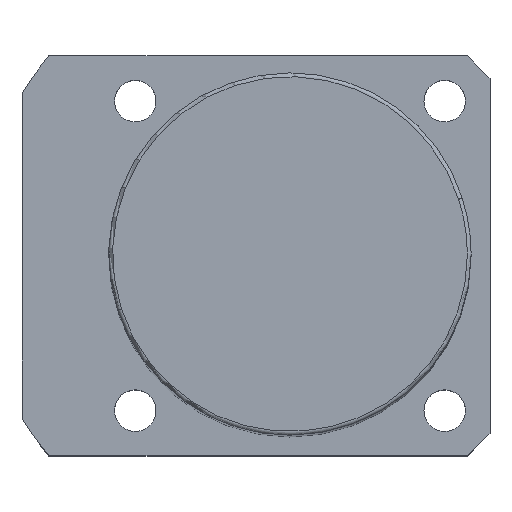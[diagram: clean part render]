
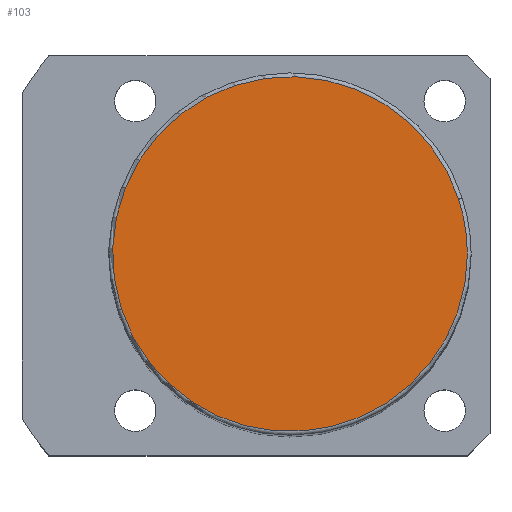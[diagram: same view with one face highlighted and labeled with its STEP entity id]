
A CAD part, top view. The second image highlights one B-rep face of the part: STEP entity #103.
In plain terms, the highlighted planar face has unit normal (0, 0, 1).
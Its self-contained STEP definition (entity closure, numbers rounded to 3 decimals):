
#16=CARTESIAN_POINT('',(-22.35,-7.262,149.0));
#17=VERTEX_POINT('',#16);
#54=CARTESIAN_POINT('',(22.35,7.262,149.0));
#55=VERTEX_POINT('',#54);
#63=CARTESIAN_POINT('',(23.5,0.0,149.0));
#64=VERTEX_POINT('',#63);
#65=CARTESIAN_POINT('',(0.0,0.0,149.0));
#66=DIRECTION('',(0.0,0.0,1.0));
#67=DIRECTION('',(1.0,0.0,0.0));
#68=AXIS2_PLACEMENT_3D('',#65,#66,#67);
#69=CIRCLE('',#68,23.5);
#70=EDGE_CURVE('no 898',#64,#55,#69,.T.);
#72=CARTESIAN_POINT('',(0.0,0.0,149.0));
#73=DIRECTION('',(0.0,0.0,1.0));
#74=DIRECTION('',(1.0,0.0,0.0));
#75=AXIS2_PLACEMENT_3D('',#72,#73,#74);
#76=CIRCLE('',#75,23.5);
#77=EDGE_CURVE('no 902',#17,#64,#76,.T.);
#87=ORIENTED_EDGE('',*,*,#70,.T.);
#88=CARTESIAN_POINT('',(0.0,0.0,149.0));
#89=DIRECTION('',(0.0,0.0,1.0));
#90=DIRECTION('',(1.0,0.0,0.0));
#91=AXIS2_PLACEMENT_3D('',#88,#89,#90);
#92=CIRCLE('',#91,23.5);
#93=EDGE_CURVE('no 911',#55,#17,#92,.T.);
#94=ORIENTED_EDGE('',*,*,#93,.T.);
#95=ORIENTED_EDGE('',*,*,#77,.T.);
#96=EDGE_LOOP('',(#87,#94,#95));
#97=FACE_OUTER_BOUND('',#96,.T.);
#98=CARTESIAN_POINT('',(0.0,0.0,149.0));
#99=DIRECTION('',(0.0,0.0,1.0));
#100=DIRECTION('',(1.0,0.0,0.0));
#101=AXIS2_PLACEMENT_3D('',#98,#99,#100);
#102=PLANE('',#101);
#103=ADVANCED_FACE('no 904',(#97),#102,.T.);
